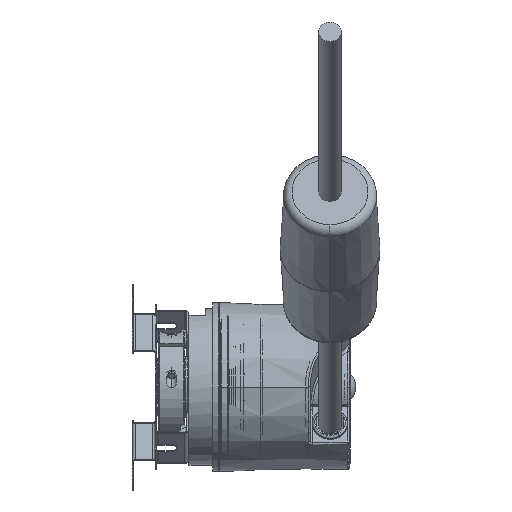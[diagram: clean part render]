
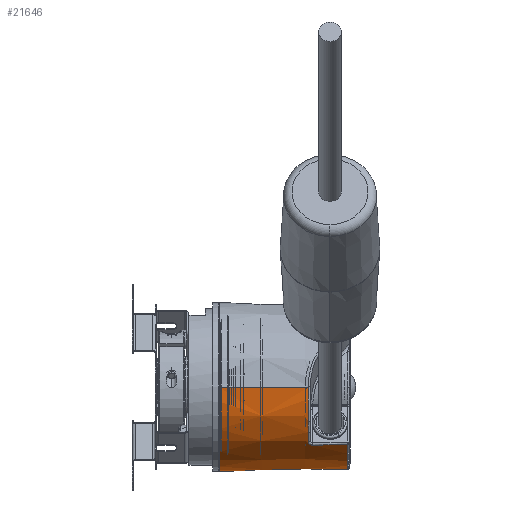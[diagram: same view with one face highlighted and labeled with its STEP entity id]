
A CAD part, front view. The second image highlights one B-rep face of the part: STEP entity #21646.
In plain terms, the highlighted conical face has half-angle 1 degrees and reference radius 18.976 mm.
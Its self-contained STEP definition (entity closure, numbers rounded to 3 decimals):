
#9104 = VERTEX_POINT ( 'NONE', #55639 ) ;
#21160 = ORIENTED_EDGE ( 'NONE', *, *, #21463, .T. ) ;
#21267 = ORIENTED_EDGE ( 'NONE', *, *, #21268, .T. ) ;
#21268 = EDGE_CURVE ( 'NONE', #44289, #9104, #64991, .T. ) ;
#21272 = ORIENTED_EDGE ( 'NONE', *, *, #21274, .T. ) ;
#21274 = EDGE_CURVE ( 'NONE', #9104, #21276, #64980, .T. ) ;
#21276 = VERTEX_POINT ( 'NONE', #64975 ) ;
#21277 = ORIENTED_EDGE ( 'NONE', *, *, #21278, .F. ) ;
#21278 = EDGE_CURVE ( 'NONE', #21279, #21276, #65071, .T. ) ;
#21279 = VERTEX_POINT ( 'NONE', #65073 ) ;
#21355 = ORIENTED_EDGE ( 'NONE', *, *, #56327, .F. ) ;
#21366 = ORIENTED_EDGE ( 'NONE', *, *, #56446, .T. ) ;
#21367 = ORIENTED_EDGE ( 'NONE', *, *, #60853, .F. ) ;
#21463 = EDGE_CURVE ( 'NONE', #21279, #56449, #65400, .T. ) ;
#21552 = EDGE_LOOP ( 'NONE', ( #21355, #21267, #21272, #21277, #21160, #21366, #21367 ) ) ;
#21646 = ADVANCED_FACE ( 'NONE', ( #65593 ), #65555, .T. ) ;
#28321 = DIRECTION ( 'NONE',  ( -1., 0.017, 0. ) ) ;
#28324 = VECTOR ( 'NONE', #28321, 1000. ) ;
#28325 = CARTESIAN_POINT ( 'NONE',  ( 42.2, 18.976, 0. ) ) ;
#28329 = LINE ( 'NONE', #28325, #28324 ) ;
#29319 = CARTESIAN_POINT ( 'NONE',  ( 12.2, 19.5, 0. ) ) ;
#29320 = CARTESIAN_POINT ( 'NONE',  ( 32.709, -19.142, 0. ) ) ;
#29322 = DIRECTION ( 'NONE',  ( -1., -0.017, 0. ) ) ;
#29324 = VECTOR ( 'NONE', #29322, 1000. ) ;
#29327 = CARTESIAN_POINT ( 'NONE',  ( 42.2, -18.976, 0. ) ) ;
#29328 = LINE ( 'NONE', #29327, #29324 ) ;
#29338 = CARTESIAN_POINT ( 'NONE',  ( 12.2, -19.5, 0. ) ) ;
#44289 = VERTEX_POINT ( 'NONE', #66576 ) ;
#45270 = DIRECTION ( 'NONE',  ( 0., -1., 0. ) ) ;
#45271 = DIRECTION ( 'NONE',  ( -1., 0., 0. ) ) ;
#45272 = CARTESIAN_POINT ( 'NONE',  ( 12.2, 0., 0. ) ) ;
#45273 = AXIS2_PLACEMENT_3D ( 'NONE', #45272, #45271, #45270 ) ;
#45274 = CIRCLE ( 'NONE', #45273, 19.5 ) ;
#55639 = CARTESIAN_POINT ( 'NONE',  ( 41.709, -13.586, -13.261 ) ) ;
#56327 = EDGE_CURVE ( 'NONE', #44289, #56452, #28329, .T. ) ;
#56442 = VERTEX_POINT ( 'NONE', #29338 ) ;
#56446 = EDGE_CURVE ( 'NONE', #56449, #56442, #29328, .T. ) ;
#56449 = VERTEX_POINT ( 'NONE', #29320 ) ;
#56452 = VERTEX_POINT ( 'NONE', #29319 ) ;
#60853 = EDGE_CURVE ( 'NONE', #56452, #56442, #45274, .T. ) ;
#64975 = CARTESIAN_POINT ( 'NONE',  ( 33.709, -13.658, -13.387 ) ) ;
#64980 = B_SPLINE_CURVE_WITH_KNOTS ( 'NONE', 3,
 ( #65084, #65083, #65082, #65081, #65080, #65079, #65077, #65076, #65075, #65074 ),
 .UNSPECIFIED., .F., .F.,
 ( 4, 3, 3, 4 ),
 ( 0., 0.001, 0.005, 0.008 ),
 .UNSPECIFIED. ) ;
#64984 = DIRECTION ( 'NONE',  ( 0., 1., 0. ) ) ;
#64986 = DIRECTION ( 'NONE',  ( -1., 0., 0. ) ) ;
#64988 = CARTESIAN_POINT ( 'NONE',  ( 41.709, 0., 0. ) ) ;
#64989 = AXIS2_PLACEMENT_3D ( 'NONE', #64988, #64986, #64984 ) ;
#64991 = CIRCLE ( 'NONE', #64989, 18.985 ) ;
#65040 = CARTESIAN_POINT ( 'NONE',  ( 33.709, -13.658, -13.387 ) ) ;
#65041 = CARTESIAN_POINT ( 'NONE',  ( 33.572, -13.659, -13.389 ) ) ;
#65043 = CARTESIAN_POINT ( 'NONE',  ( 33.437, -13.681, -13.37 ) ) ;
#65046 = CARTESIAN_POINT ( 'NONE',  ( 33.19, -13.762, -13.293 ) ) ;
#65048 = CARTESIAN_POINT ( 'NONE',  ( 33.079, -13.821, -13.235 ) ) ;
#65051 = CARTESIAN_POINT ( 'NONE',  ( 32.898, -13.961, -13.091 ) ) ;
#65054 = CARTESIAN_POINT ( 'NONE',  ( 32.827, -14.044, -13.005 ) ) ;
#65055 = CARTESIAN_POINT ( 'NONE',  ( 32.733, -14.216, -12.819 ) ) ;
#65057 = CARTESIAN_POINT ( 'NONE',  ( 32.709, -14.307, -12.718 ) ) ;
#65059 = CARTESIAN_POINT ( 'NONE',  ( 32.709, -14.397, -12.615 ) ) ;
#65071 = B_SPLINE_CURVE_WITH_KNOTS ( 'NONE', 3,
 ( #65059, #65057, #65055, #65054, #65051, #65048, #65046, #65043, #65041, #65040 ),
 .UNSPECIFIED., .F., .F.,
 ( 4, 2, 2, 2, 4 ),
 ( 0., 0., 0.001, 0.001, 0.002 ),
 .UNSPECIFIED. ) ;
#65073 = CARTESIAN_POINT ( 'NONE',  ( 32.709, -14.397, -12.615 ) ) ;
#65074 = CARTESIAN_POINT ( 'NONE',  ( 33.709, -13.658, -13.387 ) ) ;
#65075 = CARTESIAN_POINT ( 'NONE',  ( 34.709, -13.649, -13.371 ) ) ;
#65076 = CARTESIAN_POINT ( 'NONE',  ( 35.709, -13.64, -13.356 ) ) ;
#65077 = CARTESIAN_POINT ( 'NONE',  ( 36.71, -13.631, -13.34 ) ) ;
#65079 = CARTESIAN_POINT ( 'NONE',  ( 38.043, -13.619, -13.319 ) ) ;
#65080 = CARTESIAN_POINT ( 'NONE',  ( 39.376, -13.607, -13.298 ) ) ;
#65081 = CARTESIAN_POINT ( 'NONE',  ( 40.709, -13.595, -13.277 ) ) ;
#65082 = CARTESIAN_POINT ( 'NONE',  ( 41.042, -13.592, -13.271 ) ) ;
#65083 = CARTESIAN_POINT ( 'NONE',  ( 41.375, -13.589, -13.266 ) ) ;
#65084 = CARTESIAN_POINT ( 'NONE',  ( 41.709, -13.586, -13.261 ) ) ;
#65387 = DIRECTION ( 'NONE',  ( 0., -1., 0. ) ) ;
#65389 = DIRECTION ( 'NONE',  ( -1., 0., 0. ) ) ;
#65390 = CARTESIAN_POINT ( 'NONE',  ( 32.709, 0., 0. ) ) ;
#65392 = AXIS2_PLACEMENT_3D ( 'NONE', #65390, #65389, #65387 ) ;
#65400 = CIRCLE ( 'NONE', #65392, 19.142 ) ;
#65549 = DIRECTION ( 'NONE',  ( 0., -1., 0. ) ) ;
#65550 = DIRECTION ( 'NONE',  ( -1., 0., 0. ) ) ;
#65551 = CARTESIAN_POINT ( 'NONE',  ( 42.2, 0., 0. ) ) ;
#65552 = AXIS2_PLACEMENT_3D ( 'NONE', #65551, #65550, #65549 ) ;
#65555 = CONICAL_SURFACE ( 'NONE', #65552, 18.976, 0.017 ) ;
#65593 = FACE_OUTER_BOUND ( 'NONE', #21552, .T. ) ;
#66576 = CARTESIAN_POINT ( 'NONE',  ( 41.709, 18.985, 0. ) ) ;
